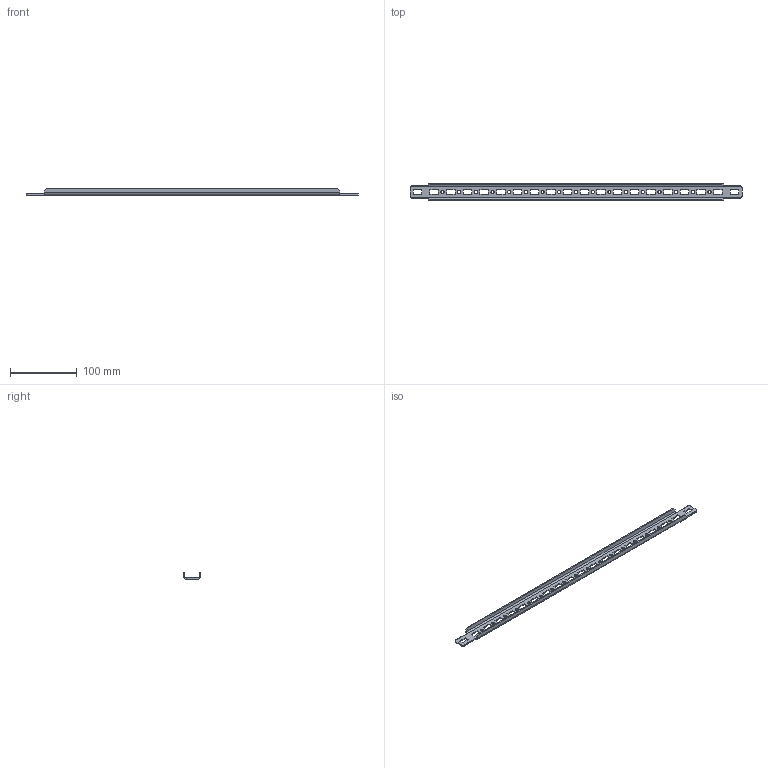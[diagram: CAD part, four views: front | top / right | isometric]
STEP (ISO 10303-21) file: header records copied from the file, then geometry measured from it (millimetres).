
FILE_DESCRIPTION (( 'STEP AP203' ), '1' );
FILE_NAME ('15673.step', '2013-04-17T10:17:45', ( '' ), ( '' ), 'SwSTEP 2.0', 'SolidWorks 2010', '' );
FILE_SCHEMA (( 'CONFIG_CONTROL_DESIGN' ));
Length unit declared in the file: inch
Products named in the file (2): 87798382; 15673
Assembly tree (1 placements, depth 2):
  15673
    87798382
Bounding box: 497.2 x 25.43 x 9.51 mm (x, y, z)
Volume: 29290 mm3; surface area: 35821.6 mm2
Topology: 1 solids, 1 shells, 152 faces, 434 edges, 284 vertices
Faces by surface type: plane 106, cylinder 42, bspline 4
Entity records: 5314 total; most frequent: CARTESIAN_POINT 970, ORIENTED_EDGE 868, DIRECTION 806, EDGE_CURVE 434, LINE 334, VECTOR 334, VERTEX_POINT 284, AXIS2_PLACEMENT_3D 236
